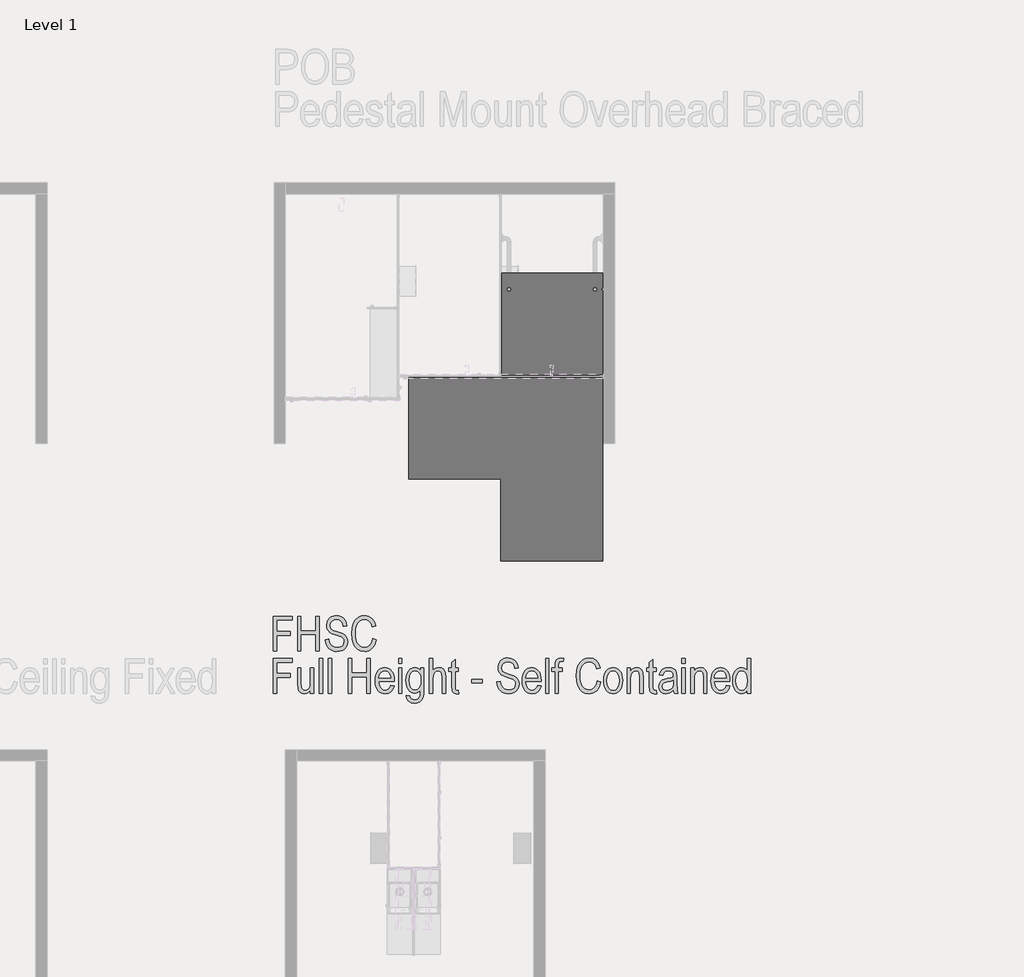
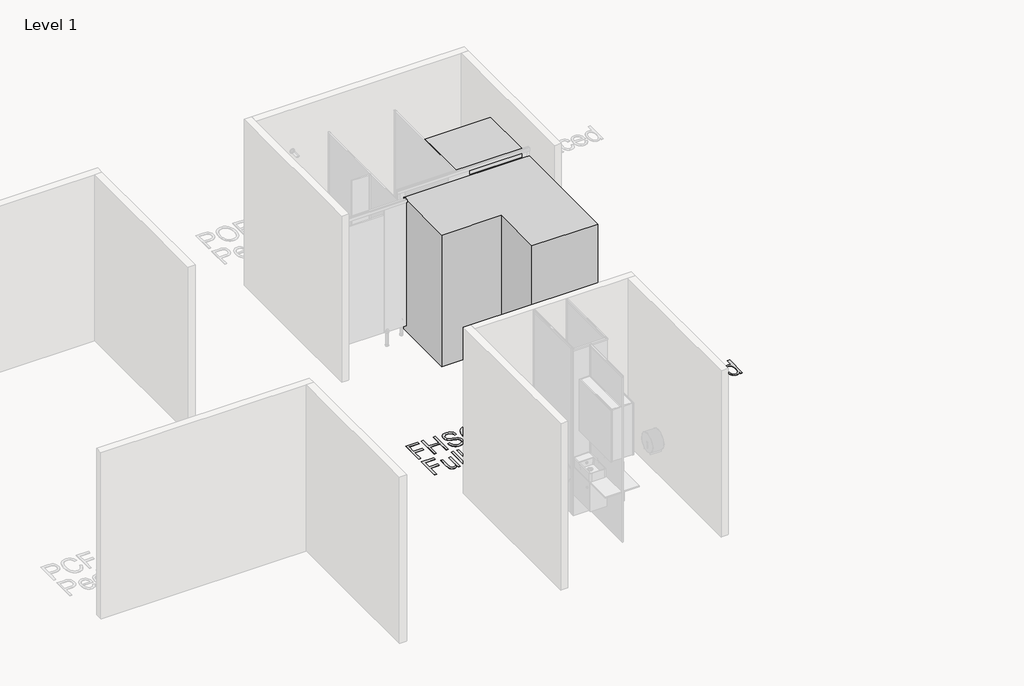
# One storey, part 19 of 21: 3 proxies.
"""IFC4 building model written with IfcOpenShell, lengths in millimetres."""

from ifc_helpers import new_model, si_unit, origin, origin_with_axes, place, context, project, spatial, polyline, outline, extrude, transform, mapped, element, save
from components import standard_f88c7766, standard_ef1a4fdd

model = new_model("IFC4")

# Units and contexts
model_context = context("Model", 3, world=origin())
ifc_project = project(units=[si_unit("LENGTHUNIT", "METRE", prefix="MILLI")], contexts=[model_context])

# Site, building, storey
site = spatial("IfcSite", under=ifc_project)
building = spatial("IfcBuilding", under=site)
storey = spatial("IfcBuildingStorey", under=building, Name="Level 1", Elevation=0.0)

# Proxies
placement = place(None, origin())
element("IfcBuildingElementProxy", 1, Name="Arial Narrow-300mm", ObjectType="Arial Narrow-300mm", at=placement, inside=storey, context=model_context, shape_type="SweptSolid", body=[
    extrude(outline(polyline([(-1240.584326, 1026.2376579), (-1240.584326, 1331.4150272), (-1073.2289944, 1331.4150272), (-1073.2289944, 1296.9595178), (-1211.0510322, 1296.9595178), (-1211.0510322, 1198.5152051), (-1092.917857, 1198.5152051), (-1092.917857, 1164.0596956), (-1211.0510322, 1164.0596956), (-1211.0510322, 1026.2376579), (-1240.584326, 1026.2376579)])), origin_with_axes(), (0.0, 0.0, 1.0), 5.0),
    extrude(outline(polyline([(-1028.9290537, 1026.2376579), (-1028.9290537, 1331.4150272), (-999.3957599, 1331.4150272), (-999.3957599, 1203.4374207), (-866.4959378, 1203.4374207), (-866.4959378, 1331.4150272), (-836.9626439, 1331.4150272), (-836.9626439, 1026.2376579), (-866.4959378, 1026.2376579), (-866.4959378, 1168.9819113), (-999.3957599, 1168.9819113), (-999.3957599, 1026.2376579), (-1028.9290537, 1026.2376579)])), origin_with_axes(), (0.0, 0.0, 1.0), 5.0),
    extrude(outline(polyline([(-782.818272, 1124.6819706), (-753.2849781, 1129.6041862), (-749.1414724, 1106.0794564), (-741.7869901, 1088.4190851), (-730.8946652, 1075.1329483), (-716.137632, 1064.7309223), (-698.4099648, 1058.0109443), (-678.6057378, 1055.7709517), (-651.9661684, 1059.3760901), (-632.0369633, 1070.1915053), (-619.6064461, 1086.7751419), (-615.4629404, 1107.6849447), (-616.9722916, 1120.3558045), (-621.5003455, 1131.2961978), (-629.075943, 1140.4580562), (-639.7279253, 1147.7933112), (-692.3725597, 1166.5977131), (-722.953747, 1177.5573338), (-742.7099055, 1188.2862257), (-755.4576749, 1200.3321948), (-765.0136951, 1215.2430473), (-770.9838043, 1232.6534623), (-772.9738407, 1252.1981193), (-767.147937, 1285.8845326), (-759.8655574, 1300.1897218), (-749.670226, 1312.8028994), (-737.00898, 1323.0991746), (-722.3288564, 1330.453657), (-705.6298553, 1334.8663464), (-686.9119767, 1336.3372429), (-661.4645064, 1333.6550199), (-639.4202868, 1325.608351), (-621.3561399, 1312.5529431), (-607.8488881, 1294.8445032), (-599.2157833, 1273.0502399), (-595.7740778, 1247.7373614), (-625.3073716, 1242.8151458), (-630.9698424, 1268.9932575), (-643.0350389, 1287.3842702), (-661.3875968, 1298.2573676), (-685.9121516, 1301.8817334), (-710.6482079, 1298.3342772), (-728.7123548, 1287.6919087), (-739.7584989, 1271.4159105), (-743.4405469, 1250.9675654), (-741.0563487, 1232.4131198), (-733.9037541, 1218.5886157), (-717.1759119, 1207.3021291), (-685.9121516, 1196.515555), (-632.9214239, 1178.5187041), (-612.4826926, 1165.2037262), (-597.7737279, 1148.9469554), (-588.8906669, 1129.5176629), (-585.9296466, 1106.6851196), (-588.9675765, 1083.3911187), (-598.0813664, 1062.2698145), (-612.4153967, 1044.6286706), (-631.1140479, 1031.7751504), (-654.1196378, 1023.9303693), (-681.3744841, 1021.3154422), (-703.166344, 1023.0579258), (-722.6268812, 1028.2853765), (-739.7560954, 1036.9977943), (-754.5539869, 1049.1951792), (-766.5446772, 1064.368005), (-775.2522882, 1082.0067455), (-780.6768197, 1102.1114007), (-782.818272, 1124.6819706)])), origin_with_axes(), (0.0, 0.0, 1.0), 5.0),
    extrude(outline(polyline([(-364.429943, 1134.5264018), (-334.8966492, 1124.6819706), (-349.7209783, 1079.2187718), (-360.1758797, 1061.4406327), (-372.6592722, 1046.9648003), (-386.8923587, 1035.7432061), (-402.5963416, 1027.7277817), (-419.7712209, 1022.9185271), (-438.4169967, 1021.3154422), (-469.9499407, 1025.5454713), (-496.5606689, 1038.2355585), (-518.5183652, 1060.2797781), (-536.0922132, 1092.5722045), (-547.6286561, 1133.3631438), (-551.4741371, 1180.9029023), (-547.6382698, 1227.3274712), (-536.1306681, 1266.003396), (-518.0761349, 1296.5461286), (-494.5994736, 1318.5711208), (-466.8831696, 1331.8957123), (-436.1097082, 1336.3372429), (-403.2308459, 1330.7132269), (-375.3511089, 1313.8411792), (-353.7779607, 1286.0671929), (-339.8188648, 1247.7373614), (-369.3521586, 1237.8929302), (-379.936845, 1265.8880316), (-394.7707878, 1285.8845326), (-413.8539871, 1297.8824332), (-437.1864428, 1301.8817334), (-460.8649919, 1298.6899842), (-481.1402903, 1289.1147366), (-497.8489051, 1272.7810562), (-510.8274033, 1249.3140086), (-519.1624833, 1218.6943664), (-521.9408433, 1180.9029023), (-520.527629, 1151.5907236), (-516.2879863, 1126.1817081), (-509.221915, 1104.6758558), (-499.3294152, 1087.0731667), (-487.0959789, 1073.3784476), (-473.007098, 1063.5965054), (-457.0627726, 1057.7273401), (-439.2630026, 1055.7709517), (-413.4117568, 1060.6547125), (-391.3867645, 1075.305995), (-374.5916264, 1099.8786183), (-364.429943, 1134.5264018)])), origin_with_axes(), (0.0, 0.0, 1.0), 5.0),
    extrude(outline(polyline([(-1240.584326, 653.1354455), (-1240.584326, 958.3128148), (-1073.2289944, 958.3128148), (-1073.2289944, 923.8573054), (-1211.0510322, 923.8573054), (-1211.0510322, 825.4129927), (-1092.917857, 825.4129927), (-1092.917857, 790.9574832), (-1211.0510322, 790.9574832), (-1211.0510322, 653.1354455), (-1240.584326, 653.1354455)])), origin_with_axes(), (0.0, 0.0, 1.0), 5.0),
    extrude(outline(polyline([(-915.7180941, 653.1354455), (-915.7180941, 683.0532874), (-926.6777149, 667.8347964), (-939.4062568, 656.9424716), (-953.9037201, 650.3955403), (-970.1701046, 648.2132298), (-988.9937339, 651.1069542), (-1004.8563429, 659.7881275), (-1016.8542435, 672.9012176), (-1024.0837477, 689.0906925), (-1028.9290537, 737.4283882), (-1028.9290537, 874.635149), (-999.3957599, 874.635149), (-999.3957599, 750.0415658), (-996.0501915, 703.6266105), (-991.2721814, 693.0611516), (-983.6292879, 684.8222086), (-973.9194485, 679.5154449), (-962.9406003, 677.7465236), (-943.3286474, 682.3418734), (-927.5621755, 696.1279226), (-918.6791144, 718.5855315), (-915.7180941, 754.2715948), (-915.7180941, 874.635149), (-886.1848003, 874.635149), (-886.1848003, 653.1354455), (-915.7180941, 653.1354455)])), origin_with_axes(), (0.0, 0.0, 1.0), 5.0),
    extrude(outline(polyline([(-836.9626439, 653.1354455), (-836.9626439, 958.3128148), (-807.4293501, 958.3128148), (-807.4293501, 653.1354455), (-836.9626439, 653.1354455)])), origin_with_axes(), (0.0, 0.0, 1.0), 5.0),
    extrude(outline(polyline([(-758.2071938, 653.1354455), (-758.2071938, 958.3128148), (-728.6739, 958.3128148), (-728.6739, 653.1354455), (-758.2071938, 653.1354455)])), origin_with_axes(), (0.0, 0.0, 1.0), 5.0),
    extrude(outline(polyline([(-581.0074309, 653.1354455), (-581.0074309, 958.3128148), (-551.4741371, 958.3128148), (-551.4741371, 830.3352083), (-418.574315, 830.3352083), (-418.574315, 958.3128148), (-389.0410212, 958.3128148), (-389.0410212, 653.1354455), (-418.574315, 653.1354455), (-418.574315, 795.8796989), (-551.4741371, 795.8796989), (-551.4741371, 653.1354455), (-581.0074309, 653.1354455)])), origin_with_axes(), (0.0, 0.0, 1.0), 5.0),
    extrude(outline(polyline([(-206.9190427, 722.0464643), (-177.3857488, 717.1242487), (-188.5953259, 687.167952), (-206.2268561, 665.5948038), (-229.5689255, 652.5586233), (-257.9101203, 648.2132298), (-276.4020768, 650.0422367), (-293.0385889, 655.5292574), (-307.8196563, 664.6742918), (-320.7452792, 677.47734), (-331.2434423, 693.7365142), (-338.7421301, 713.2499266), (-343.2413429, 736.0175774), (-344.7410804, 762.0394664), (-343.2341326, 788.9890777), (-338.713289, 812.5402451), (-331.1785498, 832.6929688), (-320.6299148, 849.4472487), (-307.7739912, 862.6204244), (-293.3173862, 872.0298357), (-277.2600998, 877.6754824), (-259.6021319, 879.5573647), (-242.6844191, 877.7403749), (-227.2327959, 872.2894056), (-213.2472623, 863.2044569), (-200.7278183, 850.4855286), (-190.414719, 834.3248948), (-183.0482196, 814.9148296), (-178.6283199, 792.2553331), (-177.15502, 766.3464051), (-177.3857488, 756.5019738), (-315.2077866, 756.5019738), (-309.6606803, 722.2387384), (-297.0186617, 697.5892054), (-279.0506519, 682.7071941), (-257.5255722, 677.7465236), (-240.7208203, 680.5152699), (-226.6848148, 688.8215088), (-215.4175556, 702.6652403), (-206.9190427, 722.0464643)]), holes=[polyline([(-313.2081365, 786.0352676), (-206.9190427, 786.0352676), (-211.2259813, 811.3000775), (-219.8398587, 829.2584736), (-237.4906163, 844.8326716), (-259.371403, 850.0240709), (-279.4640411, 845.6979048), (-296.3649299, 832.7194065), (-308.2282387, 812.3960396), (-313.2081365, 786.0352676)])]), origin_with_axes(), (0.0, 0.0, 1.0), 5.0),
    extrude(outline(polyline([(-138.0080238, 914.0128741), (-138.0080238, 958.3128148), (-108.47473, 958.3128148), (-108.47473, 914.0128741), (-138.0080238, 914.0128741)])), origin_with_axes(), (0.0, 0.0, 1.0), 5.0),
    extrude(outline(polyline([(-138.0080238, 653.1354455), (-138.0080238, 874.635149), (-108.47473, 874.635149), (-108.47473, 653.1354455), (-138.0080238, 653.1354455)])), origin_with_axes(), (0.0, 0.0, 1.0), 5.0),
    extrude(outline(polyline([(-69.0970049, 633.4465829), (-39.5637111, 628.5243673), (-35.3721368, 613.3058764), (-26.9505335, 602.5673708), (-14.3758107, 596.1934861), (2.2751218, 594.0688578), (20.5796112, 596.4626697), (34.7309812, 603.6441054), (44.8830509, 615.5554827), (51.1896397, 632.1391194), (53.958386, 680.6690892), (43.4121545, 668.6711886), (31.6161416, 660.0573112), (18.5126652, 654.8659119), (4.0440431, 653.1354455), (-11.4195973, 654.8562982), (-25.5084781, 660.0188564), (-38.2225996, 668.62312), (-49.5619616, 680.6690892), (-60.2620124, 697.8535822), (-67.9049058, 717.7202983), (-72.4906418, 740.2692373), (-74.0192205, 765.5003992), (-71.2793153, 798.9368562), (-63.0595998, 827.8741005), (-50.38874, 851.0142822), (-34.2954021, 867.0595515), (-15.4237043, 876.4329114), (5.5822355, 879.5573647), (21.0987512, 877.673079), (35.1924389, 872.020222), (47.8056165, 862.5987936), (58.8806016, 849.4087939), (58.8806016, 874.635149), (83.4916798, 874.635149), (83.4916798, 683.9762028), (81.4247338, 640.3684486), (75.2238957, 611.3735222), (64.3219572, 591.963457), (48.1517097, 577.1102868), (27.434181, 567.6792447), (2.8903988, 564.535564), (-28.0561093, 569.1020727), (-50.9078799, 582.8015986), (-64.8573621, 604.595862), (-69.0970049, 633.4465829)]), holes=[polyline([(-44.4859267, 767.8076878), (-40.7558102, 729.4297878), (-29.5654606, 703.0497884), (-12.9722102, 687.7640015), (6.9666086, 682.6687393), (26.9631096, 687.6582508), (43.7294066, 702.6267855), (55.0928029, 728.4780313), (58.8806016, 766.1156762), (54.9870522, 803.1861127), (43.3064037, 829.3353833), (26.0690353, 844.851899), (5.5053258, 850.0240709), (-13.1933254, 844.851899), (-29.4500961, 829.3353833), (-40.7269691, 803.6091156), (-44.4859267, 767.8076878)])]), origin_with_axes(), (0.0, 0.0, 1.0), 5.0),
    extrude(outline(polyline([(132.7138362, 653.1354455), (132.7138362, 958.3128148), (162.24713, 958.3128148), (162.24713, 851.9468113), (173.3894111, 864.0504627), (185.8968379, 872.6739537), (199.7694105, 877.8365119), (215.0071288, 879.5573647), (240.0604373, 874.9427875), (259.2301599, 861.099056), (266.3298791, 849.9471612), (271.4011072, 834.9497855), (275.4580896, 793.4185911), (275.4580896, 653.1354455), (245.9247958, 653.1354455), (245.9247958, 795.4951508), (243.4540742, 820.5292319), (236.0419097, 837.3339837), (224.303579, 846.8515491), (208.8543593, 850.0240709), (190.9151906, 845.9574747), (175.8601326, 833.7576864), (165.6503806, 811.1943268), (162.24713, 776.0370171), (162.24713, 653.1354455), (132.7138362, 653.1354455)])), origin_with_axes(), (0.0, 0.0, 1.0), 5.0),
    extrude(outline(polyline([(388.6690492, 677.7465236), (393.5912648, 648.2132298), (371.2874752, 648.2132298), (357.2514697, 649.8187181), (346.2149393, 654.635183), (338.1778841, 662.2396216), (333.140304, 672.209031), (329.6024616, 716.5858814), (329.6024616, 845.1018552), (304.9913834, 845.1018552), (304.9913834, 874.635149), (329.6024616, 874.635149), (329.6024616, 923.8573054), (359.1357554, 948.4683836), (359.1357554, 874.635149), (388.6690492, 874.635149), (388.6690492, 845.1018552), (359.1357554, 845.1018552), (359.1357554, 709.8178349), (361.7506824, 685.5913048), (367.095901, 679.7077189), (375.7482331, 677.7465236), (388.6690492, 677.7465236)])), origin_with_axes(), (0.0, 0.0, 1.0), 5.0),
    extrude(outline(polyline([(506.8022244, 741.7353269), (506.8022244, 776.1908363), (600.3243215, 776.1908363), (600.3243215, 741.7353269), (506.8022244, 741.7353269)])), origin_with_axes(), (0.0, 0.0, 1.0), 5.0),
    extrude(outline(polyline([(728.301928, 751.5797582), (757.8352218, 756.5019738), (761.9787275, 732.977244), (769.3332099, 715.3168727), (780.2255347, 702.0307359), (794.9825679, 691.6287099), (812.7102352, 684.9087319), (832.5144621, 682.6687393), (859.1540315, 686.2738777), (879.0832366, 697.0892929), (891.5137538, 713.6729295), (895.6572596, 734.5827323), (894.1479083, 747.2535921), (889.6198545, 758.1939854), (882.044257, 767.3558438), (871.3922747, 774.6910988), (818.7476403, 793.4955007), (788.1664529, 804.4551214), (768.4102945, 815.1840133), (755.6625251, 827.2299824), (746.1065049, 842.1408349), (740.1363957, 859.5512499), (738.1463593, 879.0959069), (743.9722629, 912.7823202), (751.2546425, 927.0875094), (761.4499739, 939.700687), (774.11122, 949.9969622), (788.7913436, 957.3514446), (805.4903447, 961.764134), (824.2082233, 963.2350305), (849.6556935, 960.5528075), (871.6999132, 952.5061386), (889.76406, 939.4507307), (903.2713119, 921.7422908), (911.9044167, 899.9480275), (915.3461221, 874.635149), (885.8128283, 869.7129334), (880.1503576, 895.8910451), (868.0851611, 914.2820578), (849.7326032, 925.1551552), (825.2080483, 928.779521), (800.471992, 925.2320648), (782.4078452, 914.5896963), (771.3617011, 898.3136981), (767.6796531, 877.865353), (770.0638513, 859.3109074), (777.2164459, 845.4864033), (793.9442881, 834.1999167), (825.2080483, 823.4133426), (878.198776, 805.4164917), (898.6375073, 792.1015138), (913.346472, 775.844743), (922.2295331, 756.4154505), (925.1905534, 733.5829072), (922.1526234, 710.2889063), (913.0388335, 689.1676021), (898.7048033, 671.5264582), (880.0061521, 658.672938), (857.0005622, 650.8281569), (829.7457158, 648.2132298), (807.9538559, 649.9557134), (788.4933188, 655.1831641), (771.3641045, 663.8955819), (756.5662131, 676.0929668), (744.5755228, 691.2657926), (735.8679118, 708.9045331), (730.4433802, 729.0091883), (728.301928, 751.5797582)])), origin_with_axes(), (0.0, 0.0, 1.0), 5.0),
    extrude(outline(polyline([(1087.6236694, 722.0464643), (1117.1569632, 717.1242487), (1105.9473862, 687.167952), (1088.3158559, 665.5948038), (1064.9737865, 652.5586233), (1036.6325918, 648.2132298), (1018.1406352, 650.0422367), (1001.5041231, 655.5292574), (986.7230557, 664.6742918), (973.7974328, 677.47734), (963.2992698, 693.7365142), (955.8005819, 713.2499266), (951.3013691, 736.0175774), (949.8016316, 762.0394664), (951.3085794, 788.9890777), (955.829423, 812.5402451), (963.3641623, 832.6929688), (973.9127972, 849.4472487), (986.7687208, 862.6204244), (1001.2253258, 872.0298357), (1017.2826122, 877.6754824), (1034.9405801, 879.5573647), (1051.858293, 877.7403749), (1067.3099162, 872.2894056), (1081.2954497, 863.2044569), (1093.8148937, 850.4855286), (1104.127993, 834.3248948), (1111.4944924, 814.9148296), (1115.9143921, 792.2553331), (1117.387692, 766.3464051), (1117.1569632, 756.5019738), (979.3349254, 756.5019738), (984.8820317, 722.2387384), (997.5240503, 697.5892054), (1015.4920602, 682.7071941), (1037.0171399, 677.7465236), (1053.8218917, 680.5152699), (1067.8578972, 688.8215088), (1079.1251564, 702.6652403), (1087.6236694, 722.0464643)]), holes=[polyline([(981.3345755, 786.0352676), (1087.6236694, 786.0352676), (1083.3167307, 811.3000775), (1074.7028533, 829.2584736), (1057.0520957, 844.8326716), (1035.171309, 850.0240709), (1015.078671, 845.6979048), (998.1777821, 832.7194065), (986.3144733, 812.3960396), (981.3345755, 786.0352676)])]), origin_with_axes(), (0.0, 0.0, 1.0), 5.0),
    extrude(outline(polyline([(1156.5346882, 653.1354455), (1156.5346882, 958.3128148), (1186.0679821, 958.3128148), (1186.0679821, 653.1354455), (1156.5346882, 653.1354455)])), origin_with_axes(), (0.0, 0.0, 1.0), 5.0),
    extrude(outline(polyline([(1240.212354, 653.1354455), (1240.212354, 845.1018552), (1210.6790602, 845.1018552), (1210.6790602, 874.635149), (1240.212354, 874.635149), (1240.212354, 897.9387637), (1241.5678861, 920.5501917), (1245.6344822, 936.7012118), (1252.489052, 948.0934492), (1262.2085052, 956.4285292), (1274.7832279, 961.5334051), (1290.2036066, 963.2350305), (1318.9678042, 958.3128148), (1313.7379501, 933.7017366), (1295.5103703, 933.7017366), (1283.6374478, 931.7693825), (1275.7061433, 925.9723199), (1271.2357717, 914.7531292), (1269.7456478, 896.5543905), (1269.7456478, 874.635149), (1304.2011573, 874.635149), (1304.2011573, 845.1018552), (1269.7456478, 845.1018552), (1269.7456478, 653.1354455), (1240.212354, 653.1354455)])), origin_with_axes(), (0.0, 0.0, 1.0), 5.0),
    extrude(outline(polyline([(1614.3007423, 761.4241894), (1643.8340361, 751.5797582), (1629.009707, 706.1165594), (1618.5548056, 688.3384203), (1606.071413, 673.8625879), (1591.8383266, 662.6409937), (1576.1343437, 654.6255693), (1558.9594644, 649.8163147), (1540.3136885, 648.2132298), (1508.7807446, 652.4432589), (1482.1700163, 665.1333461), (1460.21232, 687.1775657), (1442.638472, 719.4699921), (1431.1020291, 760.2609314), (1427.2565482, 807.8006899), (1431.0924154, 854.2252588), (1442.6000172, 892.9011836), (1460.6545503, 923.4439162), (1484.1312116, 945.4689084), (1511.8475157, 958.7934999), (1542.6209771, 963.2350305), (1575.4998394, 957.6110145), (1603.3795764, 940.7389668), (1624.9527246, 912.9649805), (1638.9118205, 874.635149), (1609.3785267, 864.7907178), (1598.7938403, 892.7858192), (1583.9598975, 912.7823202), (1564.8766982, 924.7802208), (1541.5442424, 928.779521), (1517.8656934, 925.5877718), (1497.590395, 916.0125242), (1480.8817802, 899.6788438), (1467.903282, 876.2117962), (1459.568202, 845.592154), (1456.789842, 807.8006899), (1458.2030562, 778.4885112), (1462.442699, 753.0794957), (1469.5087703, 731.5736434), (1479.4012701, 713.9709543), (1491.6347064, 700.2762352), (1505.7235873, 690.494293), (1521.6679127, 684.6251277), (1539.4676827, 682.6687393), (1565.3189285, 687.5525001), (1587.3439207, 702.2037826), (1604.1390589, 726.7764059), (1614.3007423, 761.4241894)])), origin_with_axes(), (0.0, 0.0, 1.0), 5.0),
    extrude(outline(polyline([(1668.4451143, 763.8852972), (1669.9256245, 790.7772263), (1674.367155, 814.1553472), (1681.7697058, 834.0196598), (1692.133277, 850.3701641), (1704.765682, 863.1395644), (1718.9747342, 872.2605645), (1734.7604335, 877.7331646), (1752.1227801, 879.5573647), (1769.2351704, 877.7331646), (1784.8862779, 872.2605645), (1799.0761027, 863.1395644), (1811.8046447, 850.3701641), (1822.3028077, 834.1638653), (1829.8014956, 814.7321693), (1834.3007083, 792.0750761), (1835.8004459, 766.1925858), (1834.327146, 738.291218), (1829.9072463, 714.1920695), (1822.5407468, 693.8951403), (1812.2276476, 677.4004303), (1799.631294, 664.6310301), (1785.4150315, 655.5100299), (1769.5788602, 650.0374299), (1752.1227801, 648.2132298), (1734.9166562, 650.0422367), (1719.2150767, 655.5292574), (1705.0180417, 664.6742918), (1692.3255511, 677.47734), (1681.87786, 693.8518786), (1674.4152235, 713.7113844), (1669.9376416, 737.0558572), (1668.4451143, 763.8852972)]), holes=[polyline([(1697.9784081, 763.9622069), (1701.9296398, 725.9304001), (1713.7833349, 699.0504882), (1731.482161, 683.0725148), (1752.9687859, 677.7465236), (1773.3306076, 683.1205833), (1790.5775897, 699.2427622), (1802.3447615, 726.1707427), (1806.2671521, 763.9622069), (1802.3159204, 801.8786492), (1790.4622253, 828.7201063), (1772.7633992, 844.6980797), (1751.2767743, 850.0240709), (1730.770747, 844.6692386), (1713.552606, 828.6047419), (1701.8719576, 801.7344436), (1697.9784081, 763.9622069)])]), origin_with_axes(), (0.0, 0.0, 1.0), 5.0),
    extrude(outline(polyline([(1875.178171, 653.1354455), (1875.178171, 874.635149), (1904.7114648, 874.635149), (1904.7114648, 846.0247707), (1915.2288552, 860.743349), (1927.8612602, 871.212671), (1942.5509975, 877.4711912), (1959.2403848, 879.5573647), (1984.7359236, 873.827598), (2003.65569, 858.8302223), (2014.3845819, 834.7575114), (2017.9224244, 789.2654716), (2017.9224244, 653.1354455), (1988.3891306, 653.1354455), (1988.3891306, 789.8807486), (1984.3513755, 826.1051793), (1979.1695899, 836.257249), (1971.6997432, 843.7943917), (1962.3936792, 848.4666511), (1951.7032422, 850.0240709), (1932.4181551, 845.8421103), (1917.4784616, 833.2962287), (1907.903214, 810.5982773), (1904.7114648, 775.9601075), (1904.7114648, 653.1354455), (1875.178171, 653.1354455)])), origin_with_axes(), (0.0, 0.0, 1.0), 5.0),
    extrude(outline(polyline([(2131.133384, 677.7465236), (2136.0555996, 648.2132298), (2113.75181, 648.2132298), (2099.7158045, 649.8187181), (2088.6792741, 654.635183), (2080.6422189, 662.2396216), (2075.6046388, 672.209031), (2072.0667964, 716.5858814), (2072.0667964, 845.1018552), (2047.4557182, 845.1018552), (2047.4557182, 874.635149), (2072.0667964, 874.635149), (2072.0667964, 923.8573054), (2101.6000902, 948.4683836), (2101.6000902, 874.635149), (2131.133384, 874.635149), (2131.133384, 845.1018552), (2101.6000902, 845.1018552), (2101.6000902, 709.8178349), (2104.2150172, 685.5913048), (2109.5602358, 679.7077189), (2118.2125679, 677.7465236), (2131.133384, 677.7465236)])), origin_with_axes(), (0.0, 0.0, 1.0), 5.0),
    extrude(outline(polyline([(2283.7220687, 680.6690892), (2268.0998022, 666.5177192), (2251.8430315, 656.3656495), (2234.9517563, 650.2513347), (2217.4259768, 648.2132298), (2192.1227121, 652.5009411), (2172.5107592, 665.3640749), (2159.9360364, 685.4759404), (2155.7444622, 711.5098465), (2157.753726, 729.6412892), (2163.7815174, 745.5808078), (2173.2894691, 758.7996487), (2185.7392137, 768.7690581), (2203.2553795, 776.0274034), (2227.9625947, 781.113052), (2260.8991391, 787.9195533), (2283.7220687, 795.8796989), (2283.7220687, 805.339582), (2281.6262815, 824.4516224), (2275.3389202, 836.872526), (2260.418454, 846.7361846), (2239.1913991, 850.0240709), (2219.9639943, 847.9571248), (2206.274082, 841.7562868), (2196.7949715, 829.8449095), (2190.1999716, 810.6463458), (2160.6666778, 815.5685614), (2170.4534268, 844.4769646), (2186.892858, 864.2908052), (2210.9078866, 875.7407248), (2243.4214282, 879.5573647), (2269.013104, 876.8751417), (2288.4135554, 868.8284728), (2301.7093059, 856.8209585), (2308.9868786, 842.2561993), (2313.2553625, 795.9566085), (2313.2553625, 745.8884463), (2315.2550126, 679.7077189), (2323.0997937, 653.1354455), (2293.5664999, 653.1354455), (2287.3368208, 665.7870778), (2283.7220687, 680.6690892)]), holes=[polyline([(2283.7220687, 766.3464051), (2261.6297805, 758.3093498), (2230.8851602, 751.5797582), (2202.3901463, 743.8503414), (2189.7769687, 731.5448023), (2185.277756, 713.2018581), (2187.8542282, 698.6755538), (2195.5836449, 687.3986808), (2207.8699566, 680.1595629), (2224.1171137, 677.7465236), (2240.6334545, 679.9288341), (2255.573148, 686.4757654), (2267.9363693, 696.66629), (2276.7232933, 709.7793801), (2281.9723748, 727.6897077), (2283.7220687, 752.2719447), (2283.7220687, 766.3464051)])]), origin_with_axes(), (0.0, 0.0, 1.0), 5.0),
    extrude(outline(polyline([(2357.5553032, 914.0128741), (2357.5553032, 958.3128148), (2387.088597, 958.3128148), (2387.088597, 914.0128741), (2357.5553032, 914.0128741)])), origin_with_axes(), (0.0, 0.0, 1.0), 5.0),
    extrude(outline(polyline([(2357.5553032, 653.1354455), (2357.5553032, 874.635149), (2387.088597, 874.635149), (2387.088597, 653.1354455), (2357.5553032, 653.1354455)])), origin_with_axes(), (0.0, 0.0, 1.0), 5.0),
    extrude(outline(polyline([(2436.3107533, 653.1354455), (2436.3107533, 874.635149), (2465.8440472, 874.635149), (2465.8440472, 846.0247707), (2476.3614376, 860.743349), (2488.9938426, 871.212671), (2503.6835799, 877.4711912), (2520.3729672, 879.5573647), (2545.868506, 873.827598), (2564.7882724, 858.8302223), (2575.5171643, 834.7575114), (2579.0550068, 789.2654716), (2579.0550068, 653.1354455), (2549.521713, 653.1354455), (2549.521713, 789.8807486), (2545.4839579, 826.1051793), (2540.3021723, 836.257249), (2532.8323256, 843.7943917), (2523.5262616, 848.4666511), (2512.8358245, 850.0240709), (2493.5507375, 845.8421103), (2478.611044, 833.2962287), (2469.0357964, 810.5982773), (2465.8440472, 775.9601075), (2465.8440472, 653.1354455), (2436.3107533, 653.1354455)])), origin_with_axes(), (0.0, 0.0, 1.0), 5.0),
    extrude(outline(polyline([(2751.332554, 722.0464643), (2780.8658478, 717.1242487), (2769.6562708, 687.167952), (2752.0247406, 665.5948038), (2728.6826711, 652.5586233), (2700.3414764, 648.2132298), (2681.8495198, 650.0422367), (2665.2130078, 655.5292574), (2650.4319403, 664.6742918), (2637.5063174, 677.47734), (2627.0081544, 693.7365142), (2619.5094665, 713.2499266), (2615.0102538, 736.0175774), (2613.5105162, 762.0394664), (2615.0174641, 788.9890777), (2619.5383076, 812.5402451), (2627.0730469, 832.6929688), (2637.6216819, 849.4472487), (2650.4776054, 862.6204244), (2664.9342104, 872.0298357), (2680.9914969, 877.6754824), (2698.6494648, 879.5573647), (2715.5671776, 877.7403749), (2731.0188008, 872.2894056), (2745.0043344, 863.2044569), (2757.5237783, 850.4855286), (2767.8368776, 834.3248948), (2775.2033771, 814.9148296), (2779.6232768, 792.2553331), (2781.0965767, 766.3464051), (2780.8658478, 756.5019738), (2643.04381, 756.5019738), (2648.5909163, 722.2387384), (2661.232935, 697.5892054), (2679.2009448, 682.7071941), (2700.7260245, 677.7465236), (2717.5307763, 680.5152699), (2731.5667818, 688.8215088), (2742.8340411, 702.6652403), (2751.332554, 722.0464643)]), holes=[polyline([(2645.0434601, 786.0352676), (2751.332554, 786.0352676), (2747.0256153, 811.3000775), (2738.4117379, 829.2584736), (2720.7609803, 844.8326716), (2698.8801936, 850.0240709), (2678.7875556, 845.6979048), (2661.8866667, 832.7194065), (2650.023358, 812.3960396), (2645.0434601, 786.0352676)])]), origin_with_axes(), (0.0, 0.0, 1.0), 5.0),
    extrude(outline(polyline([(2933.4545325, 653.1354455), (2933.4545325, 679.899993), (2923.9658082, 666.2773767), (2912.1121131, 656.3271947), (2898.547179, 650.241721), (2883.9247377, 648.2132298), (2868.5380069, 650.1095326), (2854.2183972, 655.798441), (2840.9659084, 665.279955), (2828.7805406, 678.5540746), (2818.5852092, 695.2650928), (2811.3028296, 715.0573027), (2806.9334019, 737.9307042), (2805.476926, 763.8852972), (2808.1110804, 798.7157411), (2816.0135438, 827.8356457), (2828.3094692, 850.7162574), (2844.1240097, 866.8288227), (2862.6688416, 876.3752292), (2883.1556415, 879.5573647), (2897.9799706, 877.6346242), (2911.6891102, 871.8664027), (2923.7062382, 862.6564758), (2933.4545325, 850.408619), (2933.4545325, 958.3128148), (2962.9878263, 958.3128148), (2962.9878263, 653.1354455), (2933.4545325, 653.1354455)]), holes=[polyline([(2835.0102198, 763.6545684), (2838.74995, 725.6612165), (2849.9691407, 698.8966689), (2866.1682293, 683.03406), (2884.8476531, 677.7465236), (2903.2290521, 682.8225585), (2918.9955241, 698.0506631), (2929.8397804, 723.5462019), (2933.4545325, 759.4245393), (2929.8397804, 800.2635472), (2918.9955241, 828.3355582), (2902.65223, 844.6019427), (2882.5403645, 850.0240709), (2864.4377629, 844.8134441), (2849.0462253, 829.181564), (2838.5192212, 802.3785617), (2835.0102198, 763.6545684)])]), origin_with_axes(), (0.0, 0.0, 1.0), 5.0),
])
standard_shape = standard_f88c7766(model_context)
element("IfcBuildingElementProxy", 2, Name="Clearance-Door-Circulation-AS1428.1-2021-Duracube : Standard", ObjectType="Clearance-Door-Circulation-AS1428.1-2021-Duracube : Standard", at=placement, inside=storey, context=model_context, shape_type="MappedRepresentation", body=[
    mapped(standard_shape, transform((1212.083348, 2628.9657683, 0.0), x_axis=(1.0, 0.0, 0.0), y_axis=(0.0, 1.0, 0.0), z_axis=(0.0, 0.0, 1.0))),
])
standard_2_shape = standard_ef1a4fdd(model_context)
element("IfcBuildingElementProxy", 3, Name="Clearance-Door-Circulation-AS1428.1-2021-Duracube : Standard", ObjectType="Clearance-Door-Circulation-AS1428.1-2021-Duracube : Standard", at=placement, inside=storey, context=model_context, shape_type="MappedRepresentation", body=[
    mapped(standard_2_shape, transform((1212.083348, 3904.4657683, 0.0), x_axis=(1.0, 0.0, 0.0), y_axis=(0.0, 1.0, 0.0), z_axis=(0.0, 0.0, 1.0))),
])

save(model, "model.ifc")
